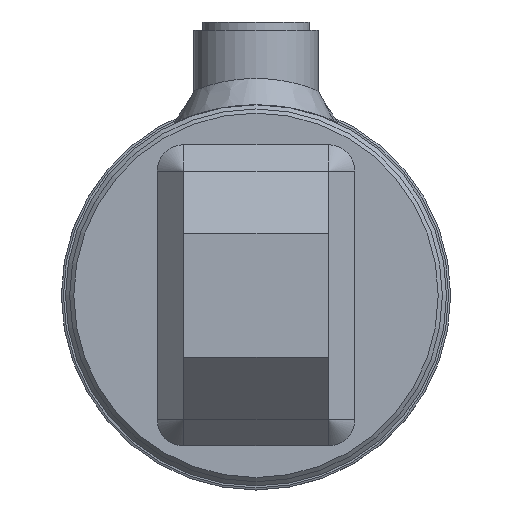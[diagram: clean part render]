
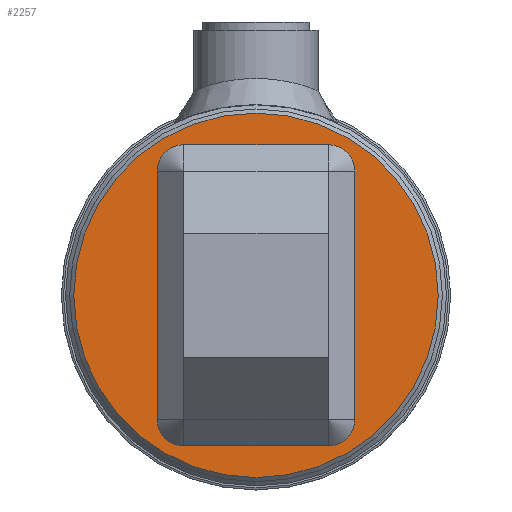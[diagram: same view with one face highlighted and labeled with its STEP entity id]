
A CAD part, left-side view. The second image highlights one B-rep face of the part: STEP entity #2257.
In plain terms, the highlighted planar face has unit normal (-1, 0, 0).
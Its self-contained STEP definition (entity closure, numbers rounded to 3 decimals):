
#2257 = ADVANCED_FACE( '', ( #6018 ), #6019, .T. );
#6018 = FACE_OUTER_BOUND( '', #7462, .T. );
#6019 = PLANE( '', #7463 );
#7462 = EDGE_LOOP( '', ( #8095 ) );
#7463 = AXIS2_PLACEMENT_3D( '', #8096, #8097, #8098 );
#8095 = ORIENTED_EDGE( '', *, *, #9082, .T. );
#8096 = CARTESIAN_POINT( '', ( -12., 0., 0. ) );
#8097 = DIRECTION( '', ( -1., 0., 0. ) );
#8098 = DIRECTION( '', ( 0., -1., 0. ) );
#9082 = EDGE_CURVE( '', #11073, #11073, #11074, .T. );
#11073 = VERTEX_POINT( '', #11746 );
#11074 = CIRCLE( '', #11747, 44. );
#11746 = CARTESIAN_POINT( '', ( -12., -44., 0. ) );
#11747 = AXIS2_PLACEMENT_3D( '', #11930, #11931, #11932 );
#11930 = CARTESIAN_POINT( '', ( -12., 0., 0. ) );
#11931 = DIRECTION( '', ( -1., 0., 0. ) );
#11932 = DIRECTION( '', ( 0., -1., 0. ) );
